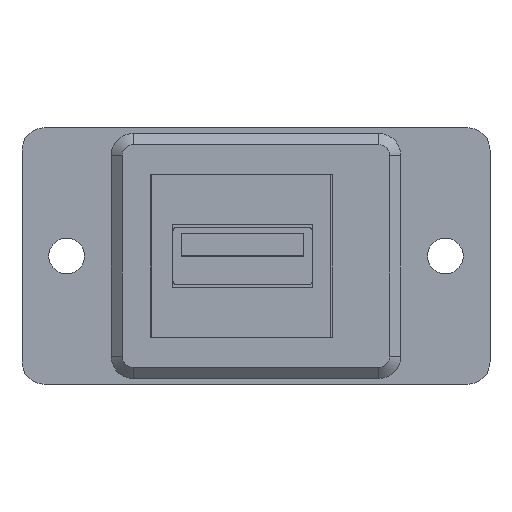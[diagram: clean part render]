
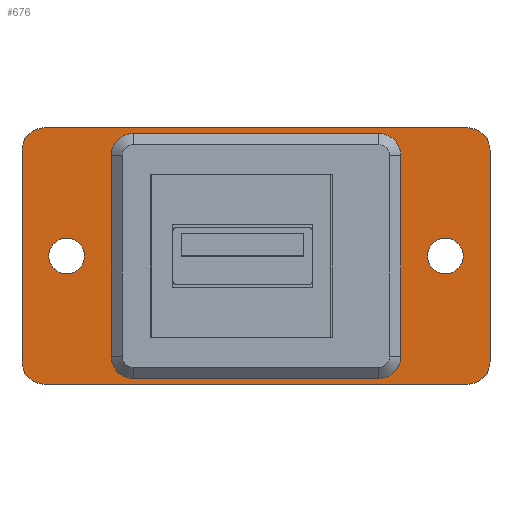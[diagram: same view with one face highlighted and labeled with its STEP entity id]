
A CAD part, top view. The second image highlights one B-rep face of the part: STEP entity #676.
In plain terms, the highlighted planar face has unit normal (0, 0, 1).
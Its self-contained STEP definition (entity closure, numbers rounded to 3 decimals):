
#238 = EDGE_CURVE('',#239,#241,#243,.T.);
#239 = VERTEX_POINT('',#240);
#240 = CARTESIAN_POINT('',(-11.65,-8.4,1.5));
#241 = VERTEX_POINT('',#242);
#242 = CARTESIAN_POINT('',(11.65,-8.4,1.5));
#243 = LINE('',#244,#245);
#244 = CARTESIAN_POINT('',(-12.15,-8.4,1.5));
#245 = VECTOR('',#246,1.);
#246 = DIRECTION('',(1.,0.,0.));
#269 = EDGE_CURVE('',#239,#270,#272,.T.);
#270 = VERTEX_POINT('',#271);
#271 = CARTESIAN_POINT('',(-12.15,-7.9,1.5));
#272 = CIRCLE('',#273,0.5);
#273 = AXIS2_PLACEMENT_3D('',#274,#275,#276);
#274 = CARTESIAN_POINT('',(-11.65,-7.9,1.5));
#275 = DIRECTION('',(0.,0.,-1.));
#276 = DIRECTION('',(0.,1.,0.));
#297 = VERTEX_POINT('',#298);
#298 = CARTESIAN_POINT('',(12.15,-7.9,1.5));
#304 = EDGE_CURVE('',#241,#297,#305,.T.);
#305 = CIRCLE('',#306,0.5);
#306 = AXIS2_PLACEMENT_3D('',#307,#308,#309);
#307 = CARTESIAN_POINT('',(11.65,-7.9,1.5));
#308 = DIRECTION('',(0.,-0.,1.));
#309 = DIRECTION('',(0.,1.,0.));
#319 = EDGE_CURVE('',#320,#270,#322,.T.);
#320 = VERTEX_POINT('',#321);
#321 = CARTESIAN_POINT('',(-12.15,7.9,1.5));
#322 = LINE('',#323,#324);
#323 = CARTESIAN_POINT('',(-12.15,8.4,1.5));
#324 = VECTOR('',#325,1.);
#325 = DIRECTION('',(0.,-1.,0.));
#343 = EDGE_CURVE('',#297,#344,#346,.T.);
#344 = VERTEX_POINT('',#345);
#345 = CARTESIAN_POINT('',(12.15,7.9,1.5));
#346 = LINE('',#347,#348);
#347 = CARTESIAN_POINT('',(12.15,-8.4,1.5));
#348 = VECTOR('',#349,1.);
#349 = DIRECTION('',(0.,1.,0.));
#367 = EDGE_CURVE('',#320,#368,#370,.T.);
#368 = VERTEX_POINT('',#369);
#369 = CARTESIAN_POINT('',(-11.65,8.4,1.5));
#370 = CIRCLE('',#371,0.5);
#371 = AXIS2_PLACEMENT_3D('',#372,#373,#374);
#372 = CARTESIAN_POINT('',(-11.65,7.9,1.5));
#373 = DIRECTION('',(0.,0.,-1.));
#374 = DIRECTION('',(0.,1.,0.));
#395 = VERTEX_POINT('',#396);
#396 = CARTESIAN_POINT('',(11.65,8.4,1.5));
#402 = EDGE_CURVE('',#344,#395,#403,.T.);
#403 = CIRCLE('',#404,0.5);
#404 = AXIS2_PLACEMENT_3D('',#405,#406,#407);
#405 = CARTESIAN_POINT('',(11.65,7.9,1.5));
#406 = DIRECTION('',(0.,-0.,1.));
#407 = DIRECTION('',(0.,1.,0.));
#417 = EDGE_CURVE('',#395,#368,#418,.T.);
#418 = LINE('',#419,#420);
#419 = CARTESIAN_POINT('',(12.15,8.4,1.5));
#420 = VECTOR('',#421,1.);
#421 = DIRECTION('',(-1.,0.,0.));
#436 = VERTEX_POINT('',#437);
#437 = CARTESIAN_POINT('',(-19.,-11.5,1.5));
#443 = EDGE_CURVE('',#436,#444,#446,.T.);
#444 = VERTEX_POINT('',#445);
#445 = CARTESIAN_POINT('',(19.,-11.5,1.5));
#446 = LINE('',#447,#448);
#447 = CARTESIAN_POINT('',(-21.,-11.5,1.5));
#448 = VECTOR('',#449,1.);
#449 = DIRECTION('',(1.,0.,0.));
#466 = EDGE_CURVE('',#436,#467,#469,.T.);
#467 = VERTEX_POINT('',#468);
#468 = CARTESIAN_POINT('',(-21.,-9.5,1.5));
#469 = CIRCLE('',#470,2.);
#470 = AXIS2_PLACEMENT_3D('',#471,#472,#473);
#471 = CARTESIAN_POINT('',(-19.,-9.5,1.5));
#472 = DIRECTION('',(-0.,-0.,-1.));
#473 = DIRECTION('',(0.,-1.,0.));
#492 = VERTEX_POINT('',#493);
#493 = CARTESIAN_POINT('',(21.,-9.5,1.5));
#499 = EDGE_CURVE('',#444,#492,#500,.T.);
#500 = CIRCLE('',#501,2.);
#501 = AXIS2_PLACEMENT_3D('',#502,#503,#504);
#502 = CARTESIAN_POINT('',(19.,-9.5,1.5));
#503 = DIRECTION('',(-0.,0.,1.));
#504 = DIRECTION('',(0.,-1.,0.));
#517 = VERTEX_POINT('',#518);
#518 = CARTESIAN_POINT('',(-21.,9.5,1.5));
#524 = EDGE_CURVE('',#517,#467,#525,.T.);
#525 = LINE('',#526,#527);
#526 = CARTESIAN_POINT('',(-21.,11.5,1.5));
#527 = VECTOR('',#528,1.);
#528 = DIRECTION('',(0.,-1.,0.));
#541 = EDGE_CURVE('',#492,#542,#544,.T.);
#542 = VERTEX_POINT('',#543);
#543 = CARTESIAN_POINT('',(21.,9.5,1.5));
#544 = LINE('',#545,#546);
#545 = CARTESIAN_POINT('',(21.,-11.5,1.5));
#546 = VECTOR('',#547,1.);
#547 = DIRECTION('',(0.,1.,0.));
#564 = EDGE_CURVE('',#517,#565,#567,.T.);
#565 = VERTEX_POINT('',#566);
#566 = CARTESIAN_POINT('',(-19.,11.5,1.5));
#567 = CIRCLE('',#568,2.);
#568 = AXIS2_PLACEMENT_3D('',#569,#570,#571);
#569 = CARTESIAN_POINT('',(-19.,9.5,1.5));
#570 = DIRECTION('',(-0.,-0.,-1.));
#571 = DIRECTION('',(0.,-1.,0.));
#590 = VERTEX_POINT('',#591);
#591 = CARTESIAN_POINT('',(19.,11.5,1.5));
#597 = EDGE_CURVE('',#542,#590,#598,.T.);
#598 = CIRCLE('',#599,2.);
#599 = AXIS2_PLACEMENT_3D('',#600,#601,#602);
#600 = CARTESIAN_POINT('',(19.,9.5,1.5));
#601 = DIRECTION('',(-0.,0.,1.));
#602 = DIRECTION('',(0.,-1.,0.));
#615 = EDGE_CURVE('',#590,#565,#616,.T.);
#616 = LINE('',#617,#618);
#617 = CARTESIAN_POINT('',(21.,11.5,1.5));
#618 = VECTOR('',#619,1.);
#619 = DIRECTION('',(-1.,0.,0.));
#630 = EDGE_CURVE('',#631,#631,#633,.T.);
#631 = VERTEX_POINT('',#632);
#632 = CARTESIAN_POINT('',(-15.4,0.,1.5));
#633 = CIRCLE('',#634,1.6);
#634 = AXIS2_PLACEMENT_3D('',#635,#636,#637);
#635 = CARTESIAN_POINT('',(-17.,0.,1.5));
#636 = DIRECTION('',(0.,0.,1.));
#637 = DIRECTION('',(1.,0.,-0.));
#655 = EDGE_CURVE('',#656,#656,#658,.T.);
#656 = VERTEX_POINT('',#657);
#657 = CARTESIAN_POINT('',(18.6,0.,1.5));
#658 = CIRCLE('',#659,1.6);
#659 = AXIS2_PLACEMENT_3D('',#660,#661,#662);
#660 = CARTESIAN_POINT('',(17.,0.,1.5));
#661 = DIRECTION('',(0.,0.,1.));
#662 = DIRECTION('',(1.,0.,-0.));
#676 = ADVANCED_FACE('',(#677,#687,#697,#700),#703,.T.);
#677 = FACE_BOUND('',#678,.T.);
#678 = EDGE_LOOP('',(#679,#680,#681,#682,#683,#684,#685,#686));
#679 = ORIENTED_EDGE('',*,*,#238,.F.);
#680 = ORIENTED_EDGE('',*,*,#269,.T.);
#681 = ORIENTED_EDGE('',*,*,#319,.F.);
#682 = ORIENTED_EDGE('',*,*,#367,.T.);
#683 = ORIENTED_EDGE('',*,*,#417,.F.);
#684 = ORIENTED_EDGE('',*,*,#402,.F.);
#685 = ORIENTED_EDGE('',*,*,#343,.F.);
#686 = ORIENTED_EDGE('',*,*,#304,.F.);
#687 = FACE_BOUND('',#688,.T.);
#688 = EDGE_LOOP('',(#689,#690,#691,#692,#693,#694,#695,#696));
#689 = ORIENTED_EDGE('',*,*,#443,.T.);
#690 = ORIENTED_EDGE('',*,*,#499,.T.);
#691 = ORIENTED_EDGE('',*,*,#541,.T.);
#692 = ORIENTED_EDGE('',*,*,#597,.T.);
#693 = ORIENTED_EDGE('',*,*,#615,.T.);
#694 = ORIENTED_EDGE('',*,*,#564,.F.);
#695 = ORIENTED_EDGE('',*,*,#524,.T.);
#696 = ORIENTED_EDGE('',*,*,#466,.F.);
#697 = FACE_BOUND('',#698,.T.);
#698 = EDGE_LOOP('',(#699));
#699 = ORIENTED_EDGE('',*,*,#630,.F.);
#700 = FACE_BOUND('',#701,.T.);
#701 = EDGE_LOOP('',(#702));
#702 = ORIENTED_EDGE('',*,*,#655,.F.);
#703 = PLANE('',#704);
#704 = AXIS2_PLACEMENT_3D('',#705,#706,#707);
#705 = CARTESIAN_POINT('',(0.,0.,1.5));
#706 = DIRECTION('',(0.,0.,1.));
#707 = DIRECTION('',(1.,0.,-0.));
